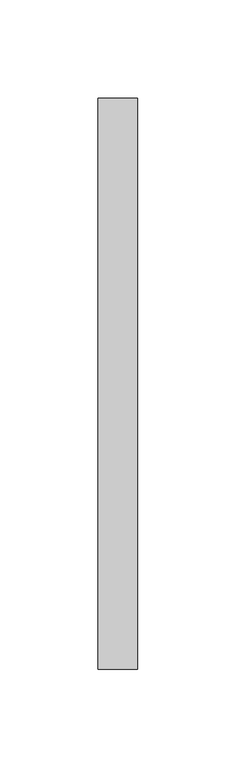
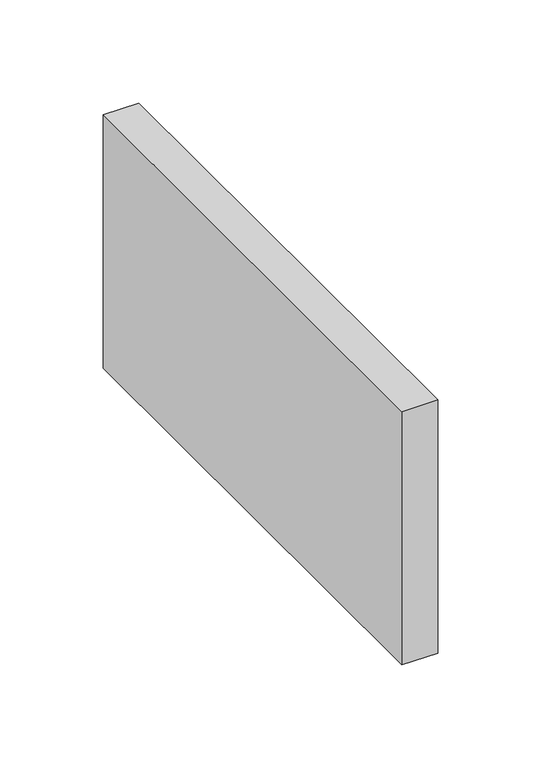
"""IFC4 building model written with IfcOpenShell, lengths in millimetres: furniture geometry, Divisoria Inferior do Painel de TV : Divisoria Inferior do Painel de TV."""

from ifc_helpers import new_model, si_unit, origin, origin_with_axes, place, context, project, spatial, polyline, outline, extrude, source, transform, mapped, element, save


def furniture_614d171c(model_context):
    return source(origin(), model_context, "Body", "SweptSolid", [
        extrude(outline(polyline([(20.0, 290.0), (20.0, 0.0), (0.0, 0.0), (0.0, 290.0), (20.0, 290.0)])), origin_with_axes(), (0.0, 0.0, 1.0), 150.0),
    ])


if __name__ == "__main__":
    model = new_model("IFC4")
    model_context = context("Model", 3, world=origin())
    ifc_project = project(units=[si_unit("LENGTHUNIT", "METRE", prefix="MILLI")], contexts=[model_context])
    site = spatial("IfcSite", under=ifc_project)
    building = spatial("IfcBuilding", under=site)
    placement = place(None, origin())
    furniture_shape = furniture_614d171c(model_context)
    element("IfcFurniture", 1, ObjectType="Divisoria Inferior do Painel de TV : Divisoria Inferior do Painel de TV", at=placement, inside=building, context=model_context, shape_type="MappedRepresentation", body=[
        mapped(furniture_shape, transform((0.0, 0.0, 0.0), x_axis=(1.0, 0.0, 0.0), y_axis=(0.0, 1.0, 0.0), z_axis=(0.0, 0.0, 1.0))),
    ])
    save(model, "model.ifc")
